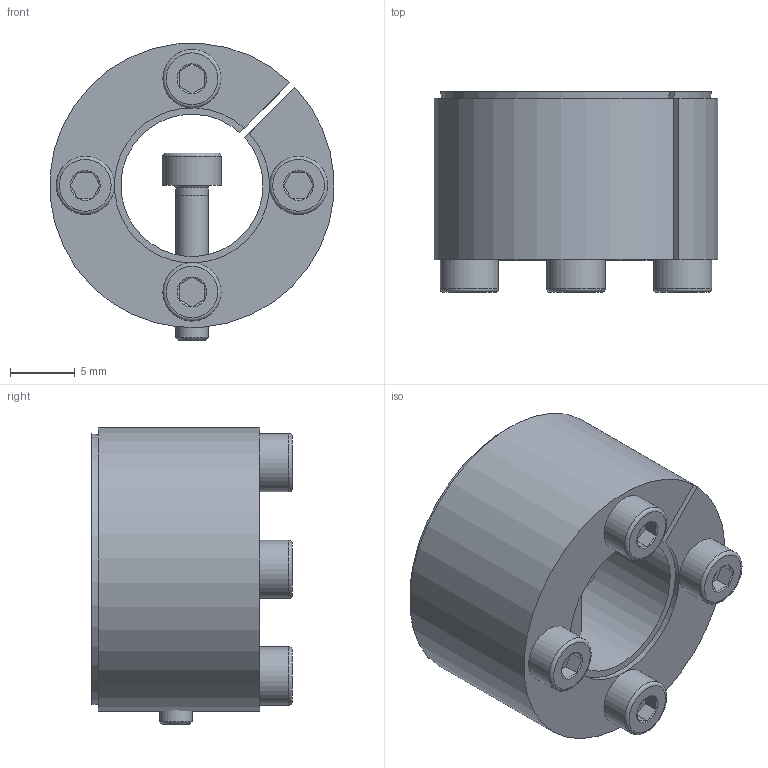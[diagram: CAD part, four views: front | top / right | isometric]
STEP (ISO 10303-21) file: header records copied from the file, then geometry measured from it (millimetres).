
FILE_DESCRIPTION( ( 'Unknown' ), '1' );
FILE_NAME( 'C:/Dokumente und Einstellungen/Sven/Desktop/homepage/cad - homepage/KBS61/KBS 61 - 11 x 22.stp', 'Unknown', ( 'Unknown' ), ( 'Unknown' ), 'XStep 1.0', 'Unknown', ' ' );
FILE_SCHEMA( ( 'automotive_design' ) );
Length unit declared in the file: millimetre
Products named in the file (6): Assem1; KBS 61 - 11 x 22; ISO EN DIN 4762 M2,5x12; ISO EN DIN 4762 M2,5x12-oa0; ISO EN DIN 4762 M2,5x12-oa1; ISO EN DIN 4762 M2,5x12-oa2
Bounding box: 21.94 x 15.5 x 22.97 mm (x, y, z)
Volume: 7521.2 mm3; surface area: 6186.6 mm2
Topology: 10 solids, 10 shells, 228 faces, 424 edges, 248 vertices
Faces by surface type: plane 108, cone 60, cylinder 44, torus 16
Full cylindrical faces by diameter (mm): 2.1 x8, 2.5 x24, 4.5 x8
Entity records: 2963 total; most frequent: CARTESIAN_POINT 556, DIRECTION 468, ORIENTED_EDGE 344, AXIS2_PLACEMENT_3D 204, EDGE_CURVE 172, EDGE_LOOP 170, FACE_OUTER_BOUND 142, VERTEX_POINT 116
